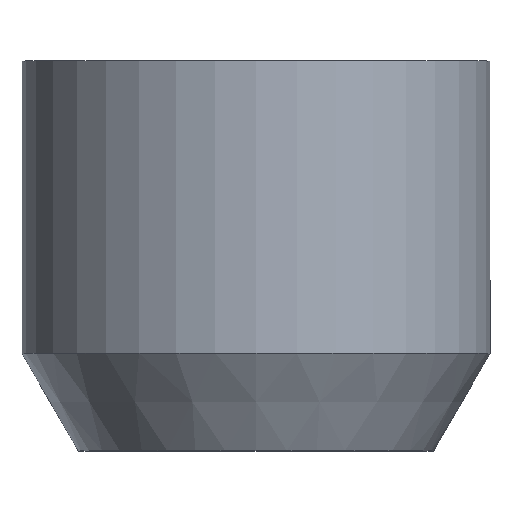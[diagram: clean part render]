
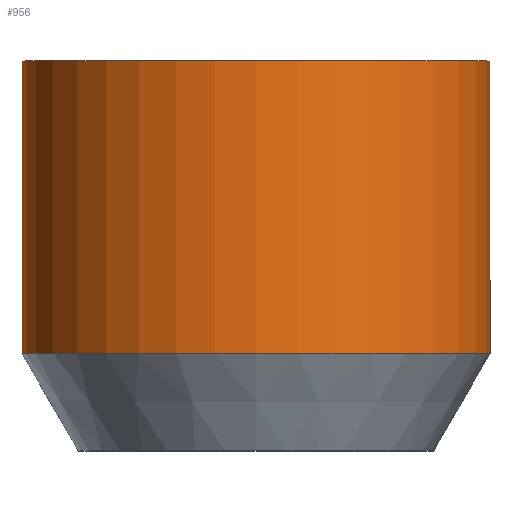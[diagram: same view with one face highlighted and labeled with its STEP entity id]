
A CAD part, top view. The second image highlights one B-rep face of the part: STEP entity #956.
In plain terms, the highlighted cylindrical face has radius 6 mm (diameter 12 mm), a full revolution.
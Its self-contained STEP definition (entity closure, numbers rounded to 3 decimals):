
#39 = AXIS2_PLACEMENT_3D ( 'NONE', #4358, #2502, #1373 ) ;
#46 = CARTESIAN_POINT ( 'NONE',  ( 6., 10., 0. ) ) ;
#522 = AXIS2_PLACEMENT_3D ( 'NONE', #2238, #2607, #836 ) ;
#723 = ORIENTED_EDGE ( 'NONE', *, *, #2177, .T. ) ;
#769 = AXIS2_PLACEMENT_3D ( 'NONE', #3190, #3599, #1353 ) ;
#782 = EDGE_CURVE ( 'NONE', #2023, #2023, #4160, .T. ) ;
#836 = DIRECTION ( 'NONE',  ( 1., 0., 0. ) ) ;
#956 = ADVANCED_FACE ( 'NONE', ( #2882, #3475 ), #3173, .T. ) ;
#1353 = DIRECTION ( 'NONE',  ( -1., 0., 0. ) ) ;
#1373 = DIRECTION ( 'NONE',  ( 1., 0., 0. ) ) ;
#2023 = VERTEX_POINT ( 'NONE', #2228 ) ;
#2177 = EDGE_CURVE ( 'NONE', #2435, #2435, #2951, .T. ) ;
#2228 = CARTESIAN_POINT ( 'NONE',  ( -6., 2.5, 0. ) ) ;
#2238 = CARTESIAN_POINT ( 'NONE',  ( 0., 10., 0. ) ) ;
#2266 = EDGE_LOOP ( 'NONE', ( #723 ) ) ;
#2435 = VERTEX_POINT ( 'NONE', #46 ) ;
#2502 = DIRECTION ( 'NONE',  ( 0., -1., 0. ) ) ;
#2607 = DIRECTION ( 'NONE',  ( 0., -1., 0. ) ) ;
#2882 = FACE_OUTER_BOUND ( 'NONE', #4446, .T. ) ;
#2951 = CIRCLE ( 'NONE', #522, 6. ) ;
#3173 = CYLINDRICAL_SURFACE ( 'NONE', #39, 6. ) ;
#3190 = CARTESIAN_POINT ( 'NONE',  ( 0., 2.5, 0. ) ) ;
#3475 = FACE_OUTER_BOUND ( 'NONE', #2266, .T. ) ;
#3599 = DIRECTION ( 'NONE',  ( 0., 1., 0. ) ) ;
#4127 = ORIENTED_EDGE ( 'NONE', *, *, #782, .T. ) ;
#4160 = CIRCLE ( 'NONE', #769, 6. ) ;
#4358 = CARTESIAN_POINT ( 'NONE',  ( 0., 0., 0. ) ) ;
#4446 = EDGE_LOOP ( 'NONE', ( #4127 ) ) ;
